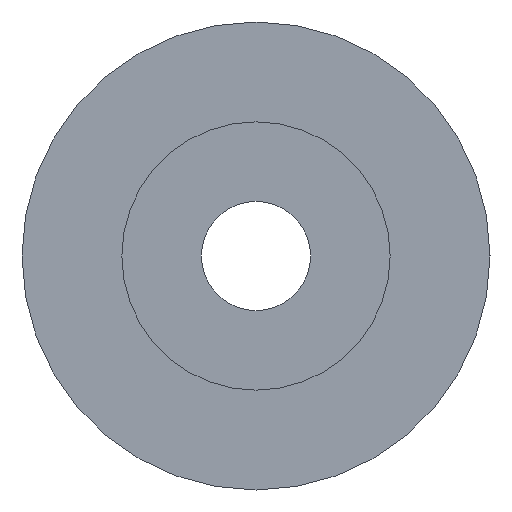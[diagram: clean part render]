
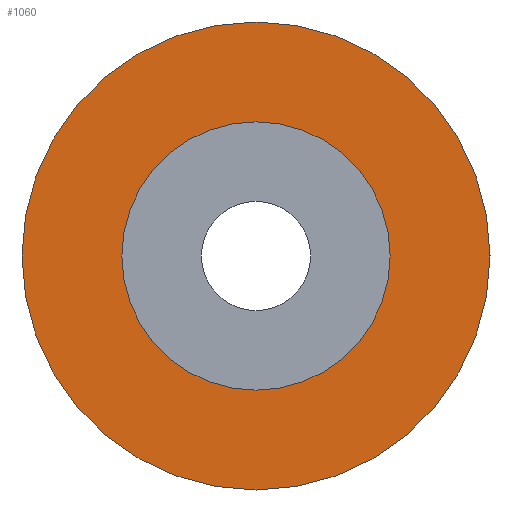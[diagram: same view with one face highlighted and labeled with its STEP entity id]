
A CAD part, left-side view. The second image highlights one B-rep face of the part: STEP entity #1060.
In plain terms, the highlighted planar face has unit normal (-1, 0, 0).
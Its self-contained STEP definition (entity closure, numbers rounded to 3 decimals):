
#130=CARTESIAN_POINT('',(0.,8.6,0.0));
#131=VERTEX_POINT('',#130);
#140=CARTESIAN_POINT('',(0.,-8.6,0.));
#141=VERTEX_POINT('',#140);
#142=CARTESIAN_POINT('',(0.,0.0,0.0));
#143=DIRECTION('',(1.0,0.0,0.0));
#144=DIRECTION('',(0.0,1.0,0.0));
#145=AXIS2_PLACEMENT_3D('',#142,#143,#144);
#146=CIRCLE('',#145,8.6);
#147=EDGE_CURVE('',#141,#131,#146,.T.);
#320=CARTESIAN_POINT('',(0.,15.0,0.0));
#321=VERTEX_POINT('',#320);
#330=CARTESIAN_POINT('',(0.,-15.0,0.));
#331=VERTEX_POINT('',#330);
#332=CARTESIAN_POINT('',(0.,0.0,0.0));
#333=DIRECTION('',(1.0,0.0,0.0));
#334=DIRECTION('',(0.0,1.0,0.0));
#335=AXIS2_PLACEMENT_3D('',#332,#333,#334);
#336=CIRCLE('',#335,15.0);
#337=EDGE_CURVE('',#321,#331,#336,.T.);
#907=CARTESIAN_POINT('',(0.,0.0,0.0));
#908=DIRECTION('',(1.0,0.0,0.0));
#909=DIRECTION('',(0.0,1.0,0.0));
#910=AXIS2_PLACEMENT_3D('',#907,#908,#909);
#911=CIRCLE('',#910,15.0);
#912=EDGE_CURVE('',#331,#321,#911,.T.);
#1037=CARTESIAN_POINT('',(0.,0.0,0.0));
#1038=DIRECTION('',(1.0,0.0,0.0));
#1039=DIRECTION('',(0.0,1.0,0.0));
#1040=AXIS2_PLACEMENT_3D('',#1037,#1038,#1039);
#1041=CIRCLE('',#1040,8.6);
#1042=EDGE_CURVE('',#131,#141,#1041,.T.);
#1047=CARTESIAN_POINT('',(0.,11.8,0.0));
#1048=DIRECTION('',(-1.0,0.0,0.0));
#1049=DIRECTION('',(0.0,0.0,1.0));
#1050=AXIS2_PLACEMENT_3D('',#1047,#1048,#1049);
#1051=PLANE('',#1050);
#1052=ORIENTED_EDGE('',*,*,#337,.F.);
#1053=ORIENTED_EDGE('',*,*,#912,.F.);
#1054=EDGE_LOOP('',(#1052,#1053));
#1055=FACE_OUTER_BOUND('',#1054,.T.);
#1056=ORIENTED_EDGE('',*,*,#1042,.T.);
#1057=ORIENTED_EDGE('',*,*,#147,.T.);
#1058=EDGE_LOOP('',(#1056,#1057));
#1059=FACE_BOUND('',#1058,.T.);
#1060=ADVANCED_FACE('',(#1055,#1059),#1051,.T.);
